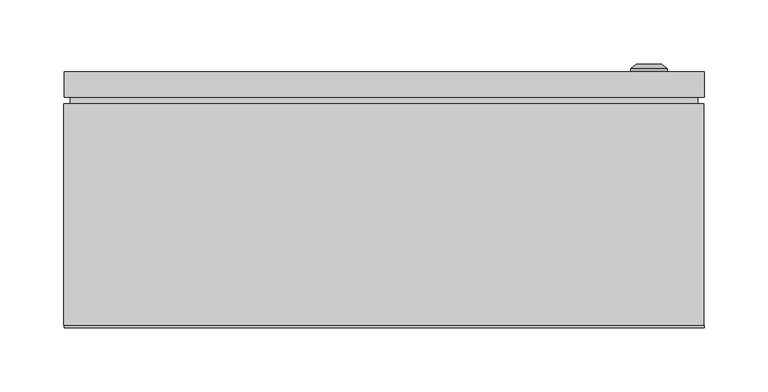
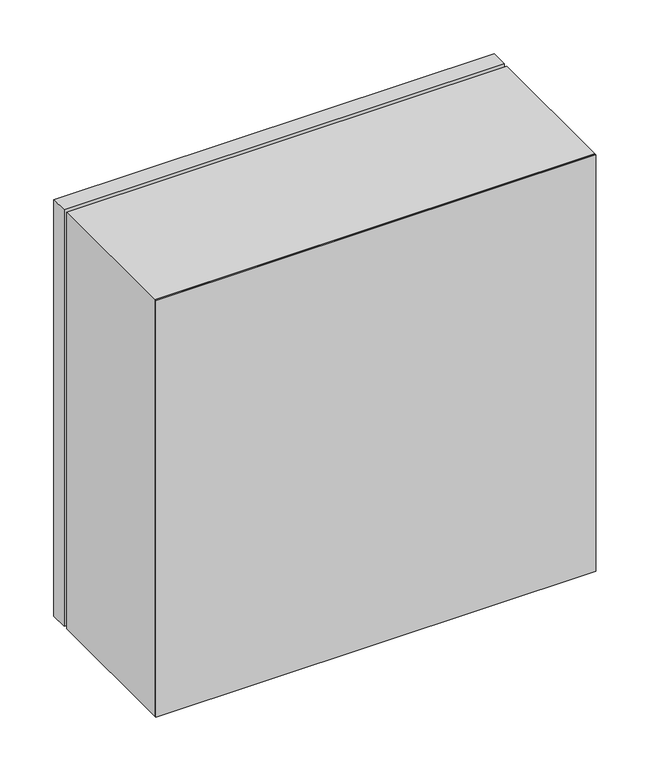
"""IFC4 building model written with IfcOpenShell, lengths in millimetres: proxy geometry, ЩМП_IP65 : ЩМП-5.5.2_500х500х200."""

from ifc_helpers import new_model, si_unit, frame, origin, origin_with_axes, place, context, project, spatial, polyline, circle_curve, outline, extrude, source, transform, mapped, element, save
from ifc_brep_helpers import plane_surface, cylinder_surface, revolved_surface, advanced_brep


def electrical_equipment_542ff611(model_context):
    return source(origin(), model_context, "Body", "SolidModel", [
        extrude(outline(polyline([(245.0, 175.0), (-245.0, 175.0), (-245.0, 180.0), (245.0, 180.0), (245.0, 175.0)])), frame((0.0, 0.0, 5.0), z_axis=(0.0, 0.0, 1.0), x_axis=(1.0, 0.0, 0.0)), (0.0, 0.0, 1.0), 490.0),
        extrude(outline(polyline([(250.0, 180.0), (-250.0, 180.0), (-250.0, 200.0), (250.0, 200.0), (250.0, 180.0)])), origin_with_axes(), (0.0, 0.0, 1.0), 500.0),
        advanced_brep(
        [(192.669873, 200.0, 246.0), (221.330127, 200.0, 246.0), (207.0, 200.0, 246.0), (192.669873, 202.366592, 246.0), (221.330127, 202.366592, 246.0), (197.0, 206.0, 246.0), (217.0, 206.0, 246.0), (205.1080471, 206.0, 246.0), (208.8919529, 206.0, 246.0), (205.1080471, 204.9822294, 246.0), (208.8919529, 204.9822294, 246.0), (207.0, 204.9822294, 246.0)],
        [
            (0, 1, circle_curve(frame((207.0, 200.0, 246.0), z_axis=(0.0, -1.0, 0.0), x_axis=(1.0, 0.0, 0.0)), 14.330127)),
            (1, 2),
            (2, 0),
            (1, 0, circle_curve(frame((207.0, 200.0, 246.0), z_axis=(0.0, -1.0, 0.0), x_axis=(1.0, 0.0, 0.0)), 14.330127)),
            (3, 4, circle_curve(frame((207.0, 202.366592, 246.0), z_axis=(0.0, -1.0, 0.0), x_axis=(1.0, 0.0, 0.0)), 14.330127)),
            (4, 1),
            (0, 3),
            (4, 3, circle_curve(frame((207.0, 202.366592, 246.0), z_axis=(0.0, -1.0, 0.0), x_axis=(1.0, 0.0, 0.0)), 14.330127)),
            (5, 6, circle_curve(frame((207.0, 206.0, 246.0), z_axis=(0.0, -1.0, 0.0), x_axis=(1.0, 0.0, 0.0)), 10.0)),
            (6, 4),
            (3, 5),
            (6, 5, circle_curve(frame((207.0, 206.0, 246.0), z_axis=(0.0, -1.0, 0.0), x_axis=(1.0, 0.0, 0.0)), 10.0)),
            (7, 8, circle_curve(frame((207.0, 206.0, 246.0), z_axis=(0.0, -1.0, 0.0), x_axis=(1.0, 0.0, 0.0)), 1.8919529)),
            (8, 6),
            (5, 7),
            (8, 7, circle_curve(frame((207.0, 206.0, 246.0), z_axis=(0.0, -1.0, 0.0), x_axis=(1.0, 0.0, 0.0)), 1.8919529)),
            (9, 10, circle_curve(frame((207.0, 204.9822294, 246.0), z_axis=(0.0, -1.0, 0.0), x_axis=(1.0, 0.0, 0.0)), 1.8919529)),
            (10, 8),
            (7, 9),
            (10, 9, circle_curve(frame((207.0, 204.9822294, 246.0), z_axis=(0.0, -1.0, 0.0), x_axis=(1.0, 0.0, 0.0)), 1.8919529)),
            (11, 10),
            (9, 11),
        ],
        [
            plane_surface(frame((207.0, 200.0, 246.0), z_axis=(0.0, -1.0, 0.0), x_axis=(1.0, 0.0, 0.0))),
            cylinder_surface(frame((207.0, 213.1348851, 246.0), z_axis=(0.0, 1.0, 0.0), x_axis=(1.0, 0.0, 0.0)), 14.330127),
            revolved_surface(polyline([(221.330127, 202.366592, 246.0), (217.0, 206.0, 246.0)]), (207.0, 213.1348851, 246.0), (0.0, 1.0, 0.0)),
            plane_surface(frame((207.0, 206.0, 246.0), z_axis=(0.0, 1.0, 0.0), x_axis=(1.0, 0.0, 0.0))),
            revolved_surface(polyline([(208.8919529, 206.0, 246.0), (208.8919529, 204.9822294, 246.0)]), (207.0, 213.1348851, 246.0), (0.0, 1.0, 0.0)),
            plane_surface(frame((207.0, 204.9822294, 246.0), z_axis=(0.0, 1.0, 0.0), x_axis=(1.0, 0.0, 0.0))),
        ],
        [
            (0, [[1, 2, 3]]),
            (0, [[4, -3, -2]]),
            (1, [[5, 6, -1, 7]]),
            (1, [[8, -7, -4, -6]]),
            (2, [[9, 10, -5, 11]]),
            (2, [[12, -11, -8, -10]]),
            (3, [[13, 14, -9, 15]]),
            (3, [[16, -15, -12, -14]]),
            (4, [[17, 18, -13, 19]]),
            (4, [[20, -19, -16, -18]]),
            (5, [[21, -17, 22]]),
            (5, [[-22, -20, -21]]),
        ],
    ),
        extrude(outline(polyline([(500.0, -250.0033905), (0.0, -250.0033905), (0.0, 249.9966095), (500.0, 249.9966095), (500.0, -250.0033905)]), holes=[polyline([(465.0, -217.0033905), (465.0, 216.9966095), (27.0, 216.9966095), (27.0, -217.0033905), (465.0, -217.0033905)])]), frame((0.0, 2.0, 0.0), z_axis=(0.0, 1.0, 0.0), x_axis=(0.0, 0.0, 1.0)), (0.0, 0.0, 1.0), 173.0),
        extrude(outline(polyline([(250.0, 0.0), (-250.0, 0.0), (-250.0, 2.0), (250.0, 2.0), (250.0, 0.0)])), origin_with_axes(), (0.0, 0.0, 1.0), 500.0),
    ])


if __name__ == "__main__":
    model = new_model("IFC4")
    model_context = context("Model", 3, world=origin())
    ifc_project = project(units=[si_unit("LENGTHUNIT", "METRE", prefix="MILLI")], contexts=[model_context])
    site = spatial("IfcSite", under=ifc_project)
    building = spatial("IfcBuilding", under=site)
    placement = place(None, origin())
    electrical_equipment_shape = electrical_equipment_542ff611(model_context)
    element("IfcBuildingElementProxy", 1, Name="ЩМП_IP65 : ЩМП-5.5.2_500х500х200", ObjectType="ЩМП_IP65 : ЩМП-5.5.2_500х500х200", at=placement, inside=building, context=model_context, shape_type="MappedRepresentation", body=[
        mapped(electrical_equipment_shape, transform((0.0, 0.0, 0.0), x_axis=(1.0, 0.0, 0.0), y_axis=(0.0, 1.0, 0.0), z_axis=(0.0, 0.0, 1.0))),
    ])
    save(model, "model.ifc")
